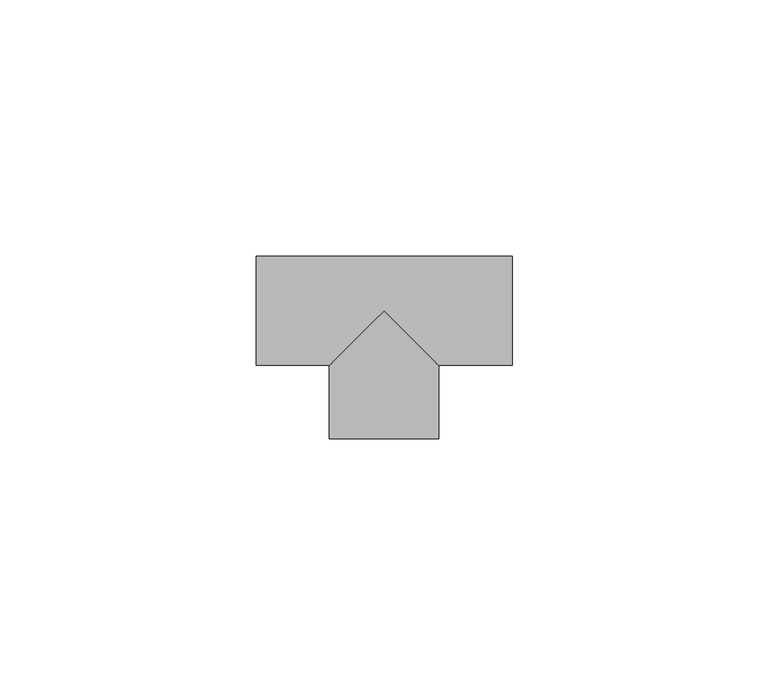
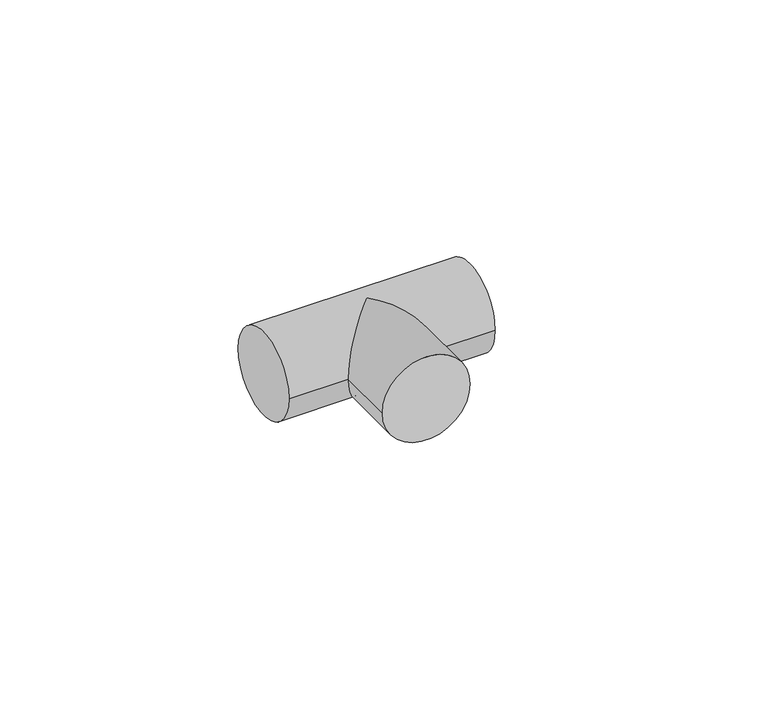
"""IFC4 building model written with IfcOpenShell, lengths in millimetres: pipe fitting geometry, T 形三通 - 常规 : 标准."""

from ifc_helpers import new_model, si_unit, frame, origin, place, context, project, spatial, circle_curve, ellipse_curve, source, transform, mapped, element, save
from ifc_brep_helpers import plane_surface, cylinder_surface, advanced_brep


def pipe_fitting_1874c2ef(model_context):
    return source(origin(), model_context, "Body", "AdvancedBrep", [
        advanced_brep(
        [(-25.0, -10.65, 0.0), (-25.0, 10.65, 0.0), (25.0, -10.65, 0.0), (25.0, 10.65, 0.0), (-10.65, -10.65, 0.0), (0.0, 0.0, 10.65), (10.65, -10.65, 0.0), (0.0, 0.0, -10.65), (-10.65, -25.0, 0.0), (10.65, -25.0, 0.0)],
        [
            (0, 1, circle_curve(frame((-25.0, 0.0, 0.0), z_axis=(-1.0, 0.0, 0.0), x_axis=(0.0, 1.0, 0.0)), 10.65)),
            (1, 0, circle_curve(frame((-25.0, 0.0, 0.0), z_axis=(-1.0, 0.0, 0.0), x_axis=(0.0, 1.0, 0.0)), 10.65)),
            (2, 3, circle_curve(frame((25.0, 0.0, 0.0), z_axis=(1.0, 0.0, 0.0), x_axis=(0.0, 1.0, 0.0)), 10.65)),
            (3, 2, circle_curve(frame((25.0, 0.0, 0.0), z_axis=(1.0, 0.0, 0.0), x_axis=(0.0, 1.0, 0.0)), 10.65)),
            (0, 4),
            (4, 5, ellipse_curve(frame((0.0, 0.0, 0.0), z_axis=(-0.707106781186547, 0.7071067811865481, 0.0), x_axis=(-0.707106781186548, -0.707106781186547, 0.0)), 15.0613744, 10.65)),
            (5, 6, ellipse_curve(frame((0.0, 0.0, 0.0), z_axis=(0.7071067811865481, 0.7071067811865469, 0.0), x_axis=(-0.7071067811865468, 0.7071067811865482, 0.0)), 15.0613744, 10.65)),
            (6, 2),
            (3, 1),
            (6, 7, ellipse_curve(frame((0.0, 0.0, 0.0), z_axis=(0.7071067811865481, 0.7071067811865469, 0.0), x_axis=(-0.7071067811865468, 0.7071067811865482, 0.0)), 15.0613744, 10.65)),
            (7, 4, ellipse_curve(frame((0.0, 0.0, 0.0), z_axis=(-0.707106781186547, 0.7071067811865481, 0.0), x_axis=(-0.707106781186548, -0.707106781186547, 0.0)), 15.0613744, 10.65)),
            (8, 9, circle_curve(frame((0.0, -25.0, 0.0), z_axis=(0.0, -1.0, 0.0), x_axis=(1.0, 0.0, 0.0)), 10.65)),
            (9, 8, circle_curve(frame((0.0, -25.0, 0.0), z_axis=(0.0, -1.0, 0.0), x_axis=(1.0, 0.0, 0.0)), 10.65)),
            (9, 6),
            (4, 8),
        ],
        [
            plane_surface(frame((-25.0, 0.0, 0.0), z_axis=(-1.0, 0.0, 0.0), x_axis=(0.0, 0.0, 1.0))),
            plane_surface(frame((25.0, 0.0, 0.0), z_axis=(1.0, 0.0, 0.0), x_axis=(0.0, 0.0, 1.0))),
            cylinder_surface(frame((-25.0, 0.0, 0.0), z_axis=(-1.0, 0.0, 0.0), x_axis=(0.0, 1.0, 0.0)), 10.65),
            plane_surface(frame((0.0, -25.0, 0.0), z_axis=(0.0, -1.0, 0.0), x_axis=(0.0, 0.0, 1.0))),
            cylinder_surface(frame((0.0, 0.0, 0.0), z_axis=(0.0, 1.0, 0.0), x_axis=(1.0, 0.0, 0.0)), 10.65),
        ],
        [
            (0, [[1, 2]]),
            (1, [[3, 4]]),
            (2, [[-1, 5, 6, 7, 8, -4, 9]]),
            (2, [[-2, -9, -3, -8, 10, 11, -5]]),
            (3, [[12, 13]]),
            (4, [[-13, 14, -7, -6, 15]]),
            (4, [[-12, -15, -11, -10, -14]]),
        ],
    ),
    ])


if __name__ == "__main__":
    model = new_model("IFC4")
    model_context = context("Model", 3, world=origin())
    ifc_project = project(units=[si_unit("LENGTHUNIT", "METRE", prefix="MILLI")], contexts=[model_context])
    site = spatial("IfcSite", under=ifc_project)
    building = spatial("IfcBuilding", under=site)
    placement = place(None, origin())
    pipe_fitting_shape = pipe_fitting_1874c2ef(model_context)
    element("IfcPipeFitting", 1, ObjectType="T 形三通 - 常规 : 标准", at=placement, inside=building, context=model_context, shape_type="MappedRepresentation", body=[
        mapped(pipe_fitting_shape, transform((0.0, 0.0, 0.0), x_axis=(1.0, 0.0, 0.0), y_axis=(0.0, 1.0, 0.0), z_axis=(0.0, 0.0, 1.0))),
    ])
    save(model, "model.ifc")
